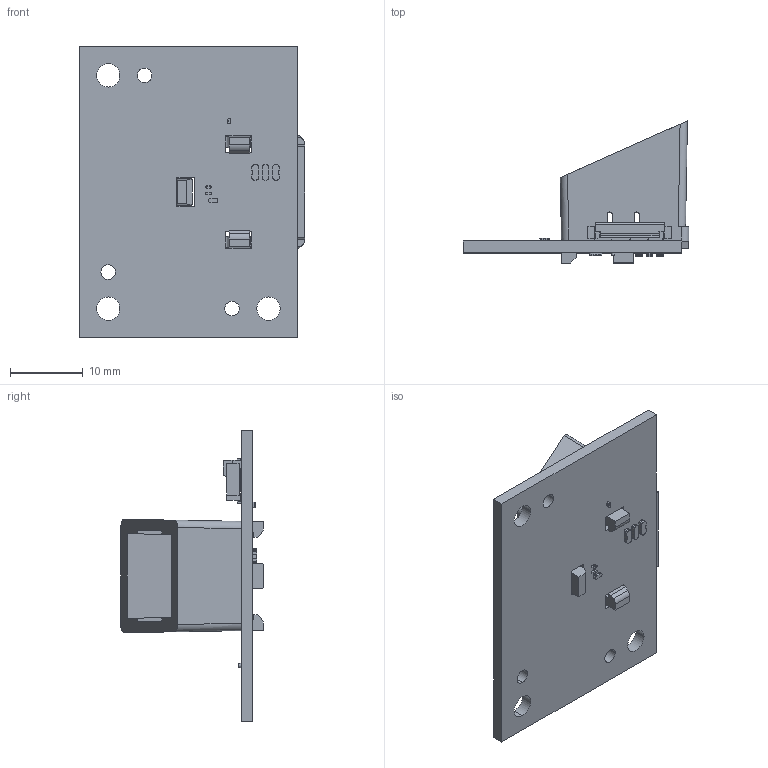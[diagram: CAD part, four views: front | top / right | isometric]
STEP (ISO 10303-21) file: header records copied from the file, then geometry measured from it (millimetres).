
FILE_DESCRIPTION((''),'2;1');
FILE_NAME('SIDE_LED_PCB_ASSY_ASM','2020-12-01T',('g6007893'),(''),'PRO/ENGINEER BY PARAMETRIC TECHNOLOGY CORPORATION, 2013320','PRO/ENGINEER BY PARAMETRIC TECHNOLOGY CORPORATION, 2013320','');
FILE_SCHEMA(('AUTOMOTIVE_DESIGN { 1 0 10303 214 1 1 1 1 }'));
Products named in the file (12): SIDE_LED_PCB; LED_EVERLIGHT_R6GHY5C_1_1_1; PRT0006; FH41-15S-0_5SH-_ASM; C-0201S1; R-0402S0; R-0603S0; 96_1520T00-025-1201-1111_BOTTOM; 96_1520T00-025-1201-1111_TOP; 96_1520T00-025-1201-1111_ASM; LIGHT_PIPE_SIDE_LED_16_3_8_1_1; SIDE_LED_PCB_ASSY_ASM
Assembly tree (17 placements, depth 3):
  SIDE_LED_PCB_ASSY_ASM
    SIDE_LED_PCB
    LED_EVERLIGHT_R6GHY5C_1_1_1  x2
    FH41-15S-0_5SH-_ASM
      PRT0006
    96_1520T00-025-1201-1111_ASM
      C-0201S1  x3
      R-0402S0  x2
      R-0603S0  x3
      96_1520T00-025-1201-1111_BOTTOM
      96_1520T00-025-1201-1111_TOP
    LIGHT_PIPE_SIDE_LED_16_3_8_1_1
Bounding box: 31 x 19.51 x 40 mm (x, y, z)
Volume: 3292.4 mm3; surface area: 4824.9 mm2
Topology: 13 solids, 13 shells, 845 faces, 4366 edges, 4626 vertices
Faces by surface type: plane 698, cylinder 144, extrusion 3
Entity records: 38817 total; most frequent: CARTESIAN_POINT 5918, DIRECTION 5445, ORIENTED_EDGE 3702, VECTOR 3303, LINE 3300, PRESENTATION_STYLE_ASSIGNMENT 2095, STYLED_ITEM 2095, CURVE_STYLE 2094
